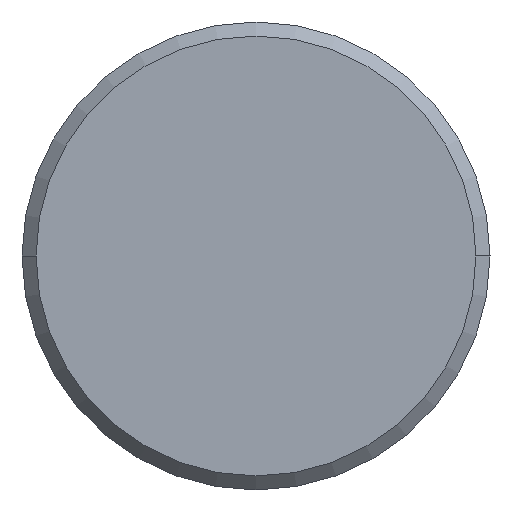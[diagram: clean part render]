
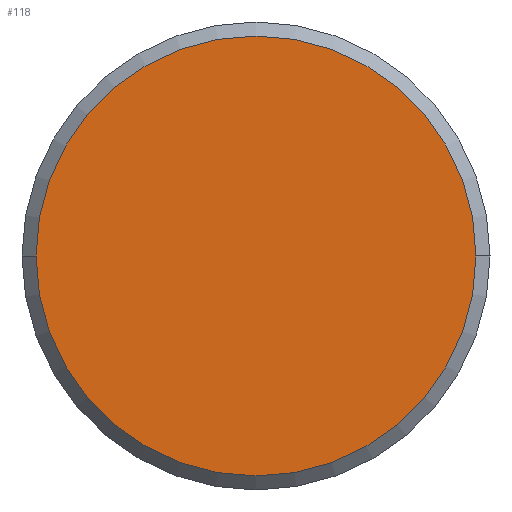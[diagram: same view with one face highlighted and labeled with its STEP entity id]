
A CAD part, left-side view. The second image highlights one B-rep face of the part: STEP entity #118.
In plain terms, the highlighted planar face has unit normal (-1, 0, 0).
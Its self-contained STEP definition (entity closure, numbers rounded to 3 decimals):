
#1 = FACE_OUTER_BOUND ( 'NONE', #35, .T. ) ;
#9 = CARTESIAN_POINT ( 'NONE',  ( -42., 2.35, 0. ) ) ;
#20 = DIRECTION ( 'NONE',  ( 1., 0., 0. ) ) ;
#35 = EDGE_LOOP ( 'NONE', ( #81, #213 ) ) ;
#81 = ORIENTED_EDGE ( 'NONE', *, *, #108, .F. ) ;
#92 = DIRECTION ( 'NONE',  ( 0., 1., 0. ) ) ;
#108 = EDGE_CURVE ( 'NONE', #415, #494, #422, .T. ) ;
#118 = ADVANCED_FACE ( 'NONE', ( #1 ), #354, .T. ) ;
#124 = DIRECTION ( 'NONE',  ( 0., 0., 1. ) ) ;
#134 = DIRECTION ( 'NONE',  ( -1., 0., 0. ) ) ;
#149 = CARTESIAN_POINT ( 'NONE',  ( -42., -4.7, 0. ) ) ;
#207 = AXIS2_PLACEMENT_3D ( 'NONE', #435, #397, #92 ) ;
#213 = ORIENTED_EDGE ( 'NONE', *, *, #247, .F. ) ;
#244 = AXIS2_PLACEMENT_3D ( 'NONE', #321, #20, #364 ) ;
#247 = EDGE_CURVE ( 'NONE', #494, #415, #274, .T. ) ;
#274 = CIRCLE ( 'NONE', #244, 4.7 ) ;
#305 = CARTESIAN_POINT ( 'NONE',  ( -42., 4.7, 0. ) ) ;
#321 = CARTESIAN_POINT ( 'NONE',  ( -42., 0., 0. ) ) ;
#354 = PLANE ( 'NONE',  #433 ) ;
#364 = DIRECTION ( 'NONE',  ( 0., 1., 0. ) ) ;
#397 = DIRECTION ( 'NONE',  ( 1., 0., 0. ) ) ;
#415 = VERTEX_POINT ( 'NONE', #305 ) ;
#422 = CIRCLE ( 'NONE', #207, 4.7 ) ;
#433 = AXIS2_PLACEMENT_3D ( 'NONE', #9, #134, #124 ) ;
#435 = CARTESIAN_POINT ( 'NONE',  ( -42., 0., 0. ) ) ;
#494 = VERTEX_POINT ( 'NONE', #149 ) ;
